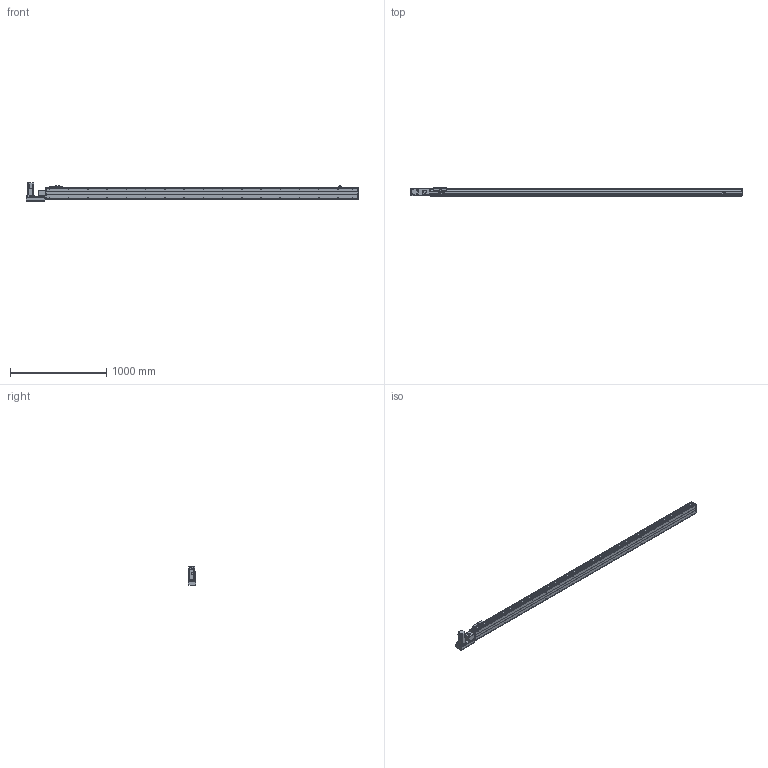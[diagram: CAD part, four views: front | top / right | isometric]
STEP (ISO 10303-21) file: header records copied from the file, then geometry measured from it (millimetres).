
FILE_DESCRIPTION(/* description */ ('STEP AP214'),/* implementation_level */ '2;1');
FILE_NAME(/* name */ 'PBS120-P40-S2950-L-T40-C1-N(0)',/* time_stamp */ '2022-06-05T02:30:38+02:00',/* author */ ('License CC BY-ND 4.0'),/* organization */ ('CADENAS'),/* preprocessor_version */ 'ST-DEVELOPER v18.102',/* originating_system */ 'PARTsolutions',/* authorisation */ ' ');
FILE_SCHEMA (('AUTOMOTIVE_DESIGN {1 0 10303 214 3 1 1}'));
Length unit declared in the file: millimetre
Products named in the file (7): PBS120-P40-S2950-L-T40-C1-N(0); PBS120_sensor; PBS120_plant; PBS120_sliser; T40-p1; PBS120T-L_motors; PBS120-S2950()_body
Assembly tree (8 placements, depth 2):
  PBS120-P40-S2950-L-T40-C1-N(0)
    PBS120_sensor  x3
    PBS120_plant
    PBS120_sliser
    T40-p1
    PBS120T-L_motors
    PBS120-S2950()_body
Bounding box: 3451 x 83 x 189.7 mm (x, y, z)
Volume: 12308451.7 mm3; surface area: 2564156.5 mm2
Topology: 8 solids, 8 shells, 882 faces, 2246 edges, 1441 vertices
Faces by surface type: plane 567, cylinder 247, cone 66, torus 2
Full cylindrical faces by diameter (mm): 2.459 x6, 3.242 x4, 4 x2, 4.134 x4, 4.5 x10, 4.917 x38, 5.5 x11, 6 x2, 6.6 x1, 7 x2, 8.5 x4, 9 x4, 12 x1, 14 x1, 30 x2, 40 x1, 50 x2
Entity records: 22674 total; most frequent: DIRECTION 3956, CARTESIAN_POINT 3839, ORIENTED_EDGE 3610, EDGE_CURVE 1805, AXIS2_PLACEMENT_3D 1364, VERTEX_POINT 1247, LINE 1228, VECTOR 1228
